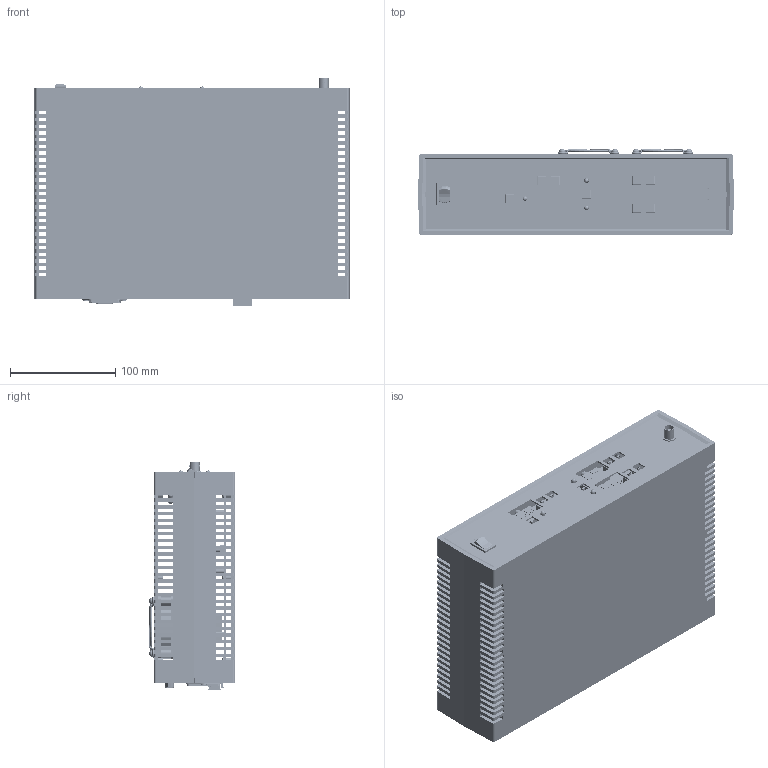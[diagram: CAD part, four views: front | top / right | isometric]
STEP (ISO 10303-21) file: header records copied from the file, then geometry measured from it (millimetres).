
FILE_DESCRIPTION (( 'STEP AP214' ), '1' );
FILE_NAME ('435.00.00.000 (#413 QBU-BT-10kV).STEP', '2025-03-09T07:44:00', ( '' ), ( '' ), 'SwSTEP 2.0', 'SolidWorks 2019', '' );
FILE_SCHEMA (( 'AUTOMOTIVE_DESIGN' ));
Length unit declared in the file: millimetre
Products named in the file (37): AC-3FL (AS-230UL); thin sheet standoff_pmm_PEM TSO-M3-1600 ZI--N; DB-9F Connector; Washer DIN 125_M3; Blind Standoff TR-BSO-M3-14 ZI (2018); socket countersunk head screw_iso_ISO 10642 - M3 x 12 --- 12N; 435.00.00.000 (#413 QBU-BT-10kV); 435.02.00.000 (Ýëåêòðîìåõàíèêà); thin sheet standoff_pmm_PEM TSO-M3-1000 ZI--C; BNC Connector; thin sheet standoff_pmm_PEM TSO-M3-1900 ZI--N; 435.00.00.004 (ﾎ魵瑙韃)_尚 罧ｮｫ遐ｭｨ畯M-FLAT-PATTERN; Screw M3x8 DIN912 (2018); socket button head screw_iso_ISO 7380 - M3 x 12 --- 12N; Nut DIN 934_M3; socket head cap screw_din_DIN 912 M3 x 8 --- 8N; Øåñòèãðàííàÿ ñòîéêà SCR-10_M3x5; 435.00.00.003 Front panel_-00; 扻斀錼膷 SCR-10_CA-0230; 435.01.00.000 (HDV10M); Cali34 RevC; sheet metal screws_din_Tapping screw DIN 7049-ST3.5x9.5-C-H-N; 435.00.00.002 (Back panel)_-00; flush pin_pmm_PEM FHS-5mm-15 -; thin sheet standoff_pmm_PEM TSO-M3-1400 ZI--C; Ðåøåòêà 60õ60; Fan 60x60x15; 435.00.00.000-03 Front panel; Nut DIN 934_M5; socket head cap screw_iso_ISO 4762 M3 x 8 --- 8N; GRS-4013A; 435.00.00.001 (Box 735); Washer M3 DIN125 (2018); Washer M3 DIN127 (2018); Washer DIN 127_M3; 435.01.00.000 (HVD10M)_-00
Assembly tree (156 placements, depth 3):
  435.00.00.000 (#413 QBU-BT-10kV)
    435.02.00.000 (Ýëåêòðîìåõàíèêà)
      AC-3FL (AS-230UL)
      DB-9F Connector
      BNC Connector
      Ðåøåòêà 60õ60  x2
    435.01.00.000 (HDV10M)
      435.01.00.000 (HVD10M)_-00
    435.00.00.001 (Box 735)
    435.00.00.002 (Back panel)_-00
    435.00.00.004 (ﾎ魵瑙韃)_尚 罧ｮｫ遐ｭｨ畯M-FLAT-PATTERN
    扻斀錼膷 SCR-10_CA-0230
      Øåñòèãðàííàÿ ñòîéêà SCR-10_M3x5
      Washer DIN 125_M3
      Washer DIN 127_M3
      Nut DIN 934_M3
    扻斀錼膷 SCR-10_CA-0230
      Øåñòèãðàííàÿ ñòîéêà SCR-10_M3x5
      Washer DIN 125_M3
      Washer DIN 127_M3
      Nut DIN 934_M3
    thin sheet standoff_pmm_PEM TSO-M3-1400 ZI--C  x6
    thin sheet standoff_pmm_PEM TSO-M3-1600 ZI--N  x4
    thin sheet standoff_pmm_PEM TSO-M3-1000 ZI--C  x4
    flush pin_pmm_PEM FHS-5mm-15 -
    Washer DIN 125_M3  x22
    Washer DIN 127_M3  x22
    Nut DIN 934_M5
    socket head cap screw_din_DIN 912 M3 x 8 --- 8N  x10
    socket button head screw_iso_ISO 7380 - M3 x 12 --- 12N  x8
    socket head cap screw_iso_ISO 4762 M3 x 8 --- 8N  x4
    socket countersunk head screw_iso_ISO 10642 - M3 x 12 --- 12N  x2
    thin sheet standoff_pmm_PEM TSO-M3-1900 ZI--N  x8
    sheet metal screws_din_Tapping screw DIN 7049-ST3.5x9.5-C-H-N  x12
    Fan 60x60x15  x2
    435.00.00.000-03 Front panel
      435.00.00.003 Front panel_-00
      Cali34 RevC
      BNC Connector
      GRS-4013A
      Blind Standoff TR-BSO-M3-14 ZI (2018)  x6
      Washer M3 DIN125 (2018)  x6
      Washer M3 DIN127 (2018)  x6
      Screw M3x8 DIN912 (2018)  x6
Bounding box: 300 x 81.55 x 216.84 mm (x, y, z)
Volume: 867198.5 mm3; surface area: 670964.7 mm2
Topology: 169 solids, 1179 shells, 10637 faces, 38408 edges, 28919 vertices
Faces by surface type: plane 6938, cylinder 2720, cone 388, torus 256, bspline 237, sphere 98
Entity records: 428961 total; most frequent: CARTESIAN_POINT 98439, ORIENTED_EDGE 49044, DIRECTION 47566, EDGE_CURVE 32488, VERTEX_POINT 25289, VECTOR 22062, LINE 22062, AXIS2_PLACEMENT_3D 12752
